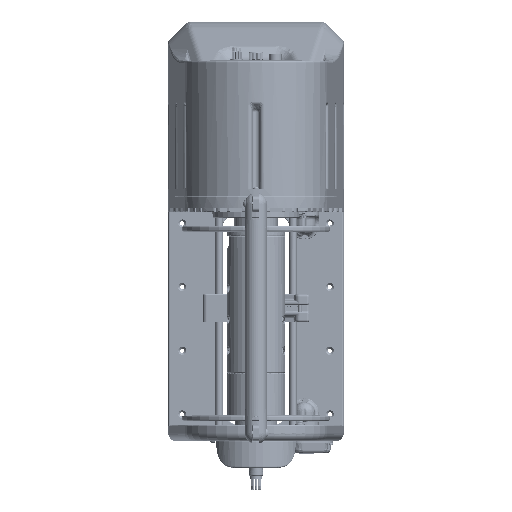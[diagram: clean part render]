
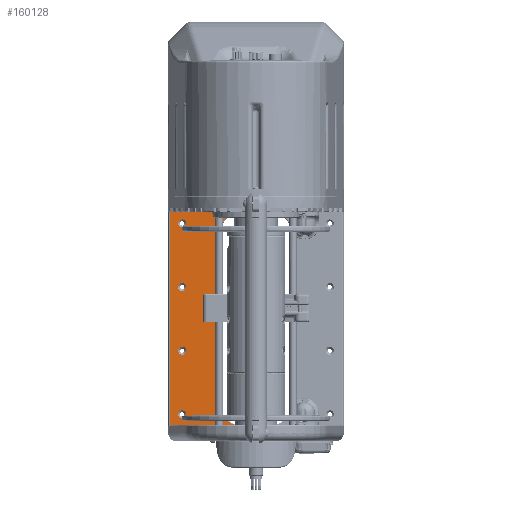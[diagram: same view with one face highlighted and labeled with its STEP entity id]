
A CAD part, top view. The second image highlights one B-rep face of the part: STEP entity #160128.
In plain terms, the highlighted planar face has unit normal (0, 0, 1).
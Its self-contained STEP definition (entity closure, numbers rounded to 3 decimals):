
#5540=FACE_BOUND('',#26616,.T.);
#5541=FACE_BOUND('',#26617,.T.);
#5542=FACE_BOUND('',#26618,.T.);
#5543=FACE_BOUND('',#26619,.T.);
#7362=PLANE('',#177126);
#16116=FACE_OUTER_BOUND('',#26615,.T.);
#26615=EDGE_LOOP('',(#133663,#133664,#133665,#133666,#133667,#133668));
#26616=EDGE_LOOP('',(#133669));
#26617=EDGE_LOOP('',(#133670));
#26618=EDGE_LOOP('',(#133671));
#26619=EDGE_LOOP('',(#133672));
#37014=CIRCLE('',#177127,31.);
#37015=CIRCLE('',#177128,31.);
#37016=CIRCLE('',#177129,5.2);
#37017=CIRCLE('',#177130,5.2);
#37018=CIRCLE('',#177131,5.2);
#37019=CIRCLE('',#177132,5.2);
#47293=LINE('',#251112,#54233);
#48603=LINE('',#334191,#55543);
#50282=LINE('',#378642,#57222);
#50283=LINE('',#378644,#57223);
#54233=VECTOR('',#187974,10.);
#55543=VECTOR('',#204246,10.);
#57222=VECTOR('',#213621,10.);
#57223=VECTOR('',#213624,10.);
#60296=VERTEX_POINT('',#243950);
#60319=VERTEX_POINT('',#244000);
#62047=VERTEX_POINT('',#251111);
#67039=VERTEX_POINT('',#334189);
#69817=VERTEX_POINT('',#378639);
#69818=VERTEX_POINT('',#378641);
#69819=VERTEX_POINT('',#378645);
#69820=VERTEX_POINT('',#378647);
#69821=VERTEX_POINT('',#378649);
#69822=VERTEX_POINT('',#378651);
#78357=EDGE_CURVE('',#62047,#60296,#47293,.T.);
#87164=EDGE_CURVE('',#67039,#60319,#48603,.T.);
#91903=EDGE_CURVE('',#69817,#67039,#37014,.T.);
#91904=EDGE_CURVE('',#69818,#69817,#50282,.T.);
#91905=EDGE_CURVE('',#62047,#69818,#37015,.T.);
#91906=EDGE_CURVE('',#60319,#60296,#50283,.T.);
#91907=EDGE_CURVE('',#69819,#69819,#37016,.T.);
#91908=EDGE_CURVE('',#69820,#69820,#37017,.T.);
#91909=EDGE_CURVE('',#69821,#69821,#37018,.T.);
#91910=EDGE_CURVE('',#69822,#69822,#37019,.T.);
#133663=ORIENTED_EDGE('',*,*,#87164,.F.);
#133664=ORIENTED_EDGE('',*,*,#91903,.F.);
#133665=ORIENTED_EDGE('',*,*,#91904,.F.);
#133666=ORIENTED_EDGE('',*,*,#91905,.F.);
#133667=ORIENTED_EDGE('',*,*,#78357,.T.);
#133668=ORIENTED_EDGE('',*,*,#91906,.F.);
#133669=ORIENTED_EDGE('',*,*,#91907,.T.);
#133670=ORIENTED_EDGE('',*,*,#91908,.T.);
#133671=ORIENTED_EDGE('',*,*,#91909,.T.);
#133672=ORIENTED_EDGE('',*,*,#91910,.T.);
#160128=ADVANCED_FACE('',(#16116,#5540,#5541,#5542,#5543),#7362,.T.);
#177126=AXIS2_PLACEMENT_3D('',#378638,#213617,#213618);
#177127=AXIS2_PLACEMENT_3D('',#378640,#213619,#213620);
#177128=AXIS2_PLACEMENT_3D('',#378643,#213622,#213623);
#177129=AXIS2_PLACEMENT_3D('',#378646,#213625,#213626);
#177130=AXIS2_PLACEMENT_3D('',#378648,#213627,#213628);
#177131=AXIS2_PLACEMENT_3D('',#378650,#213629,#213630);
#177132=AXIS2_PLACEMENT_3D('',#378652,#213631,#213632);
#187974=DIRECTION('',(-1.,0.,0.));
#204246=DIRECTION('',(-1.,0.,0.));
#213617=DIRECTION('center_axis',(0.,0.,
1.));
#213618=DIRECTION('ref_axis',(1.,0.,0.));
#213619=DIRECTION('center_axis',(0.,0.,
1.));
#213620=DIRECTION('ref_axis',(-0.707,-0.707,0.));
#213621=DIRECTION('',(0.,-1.,0.));
#213622=DIRECTION('center_axis',(0.,0.,
1.));
#213623=DIRECTION('ref_axis',(-0.707,0.707,0.));
#213624=DIRECTION('',(0.,1.,0.));
#213625=DIRECTION('center_axis',(0.,0.,
-1.));
#213626=DIRECTION('ref_axis',(1.,0.,0.));
#213627=DIRECTION('center_axis',(0.,0.,
-1.));
#213628=DIRECTION('ref_axis',(1.,0.,0.));
#213629=DIRECTION('center_axis',(0.,0.,
-1.));
#213630=DIRECTION('ref_axis',(1.,0.,0.));
#213631=DIRECTION('center_axis',(0.,0.,
-1.));
#213632=DIRECTION('ref_axis',(1.,0.,0.));
#243950=CARTESIAN_POINT('',(-111.,138.,18.));
#244000=CARTESIAN_POINT('',(-111.,-139.,18.));
#251111=CARTESIAN_POINT('',(-17.,138.,18.));
#251112=CARTESIAN_POINT('',(-43.803,138.,18.));
#334189=CARTESIAN_POINT('',(-17.,-139.,18.));
#334191=CARTESIAN_POINT('',(-43.803,-139.,18.));
#378638=CARTESIAN_POINT('Origin',(0.,80.344,
18.));
#378639=CARTESIAN_POINT('',(-48.,-108.,18.));
#378640=CARTESIAN_POINT('Origin',(-17.,-108.,18.));
#378641=CARTESIAN_POINT('',(-48.,107.,18.));
#378642=CARTESIAN_POINT('',(-48.,-69.25,18.));
#378643=CARTESIAN_POINT('Origin',(-17.,107.,18.));
#378644=CARTESIAN_POINT('',(-111.,78.25,18.));
#378645=CARTESIAN_POINT('',(-100.2,-123.5,18.));
#378646=CARTESIAN_POINT('Origin',(-95.,-123.5,18.));
#378647=CARTESIAN_POINT('',(-100.2,40.5,18.));
#378648=CARTESIAN_POINT('Origin',(-95.,40.5,18.));
#378649=CARTESIAN_POINT('',(-100.2,122.5,18.));
#378650=CARTESIAN_POINT('Origin',(-95.,122.5,18.));
#378651=CARTESIAN_POINT('',(-100.2,-41.5,18.));
#378652=CARTESIAN_POINT('Origin',(-95.,-41.5,18.));
